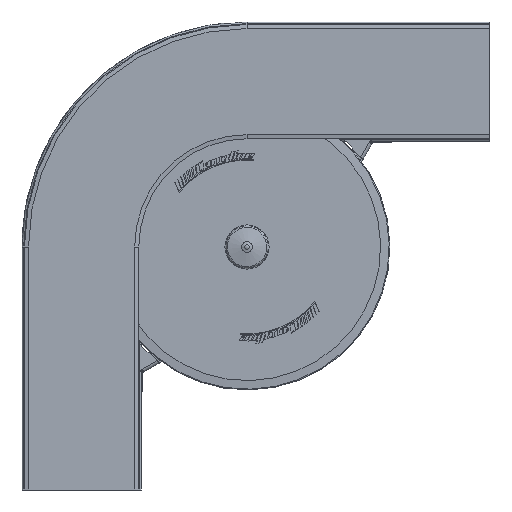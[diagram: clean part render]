
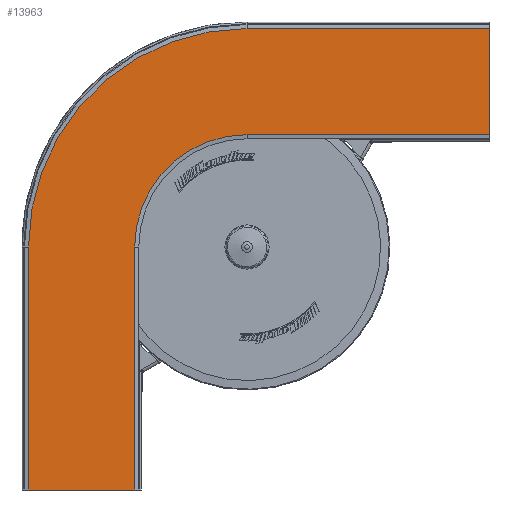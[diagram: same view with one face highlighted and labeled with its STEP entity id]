
A CAD part, front view. The second image highlights one B-rep face of the part: STEP entity #13963.
In plain terms, the highlighted planar face has unit normal (0, -1, 0).
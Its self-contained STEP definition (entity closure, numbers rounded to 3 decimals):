
#850=CIRCLE('',#15004,137.5);
#851=CIRCLE('',#15006,267.5);
#1390=FACE_OUTER_BOUND('',#2226,.T.);
#2226=EDGE_LOOP('',(#9296,#9297,#9298,#9299,#9300,#9301,#9302,#9303));
#3179=LINE('',#20115,#4499);
#3183=LINE('',#20122,#4503);
#3194=LINE('',#20155,#4514);
#3195=LINE('',#20157,#4515);
#3196=LINE('',#20158,#4516);
#3197=LINE('',#20159,#4517);
#4499=VECTOR('',#16266,10.);
#4503=VECTOR('',#16272,10.);
#4514=VECTOR('',#16303,10.);
#4515=VECTOR('',#16304,10.);
#4516=VECTOR('',#16305,10.);
#4517=VECTOR('',#16306,10.);
#5819=VERTEX_POINT('',#20112);
#5820=VERTEX_POINT('',#20114);
#5822=VERTEX_POINT('',#20120);
#5831=VERTEX_POINT('',#20146);
#5832=VERTEX_POINT('',#20148);
#5833=VERTEX_POINT('',#20152);
#5834=VERTEX_POINT('',#20154);
#5835=VERTEX_POINT('',#20156);
#7167=EDGE_CURVE('',#5820,#5819,#3179,.T.);
#7171=EDGE_CURVE('',#5822,#5819,#3183,.T.);
#7184=EDGE_CURVE('',#5832,#5831,#850,.T.);
#7186=EDGE_CURVE('',#5833,#5822,#851,.T.);
#7187=EDGE_CURVE('',#5834,#5833,#3194,.T.);
#7188=EDGE_CURVE('',#5834,#5835,#3195,.T.);
#7189=EDGE_CURVE('',#5835,#5832,#3196,.T.);
#7190=EDGE_CURVE('',#5831,#5820,#3197,.T.);
#9296=ORIENTED_EDGE('',*,*,#7167,.T.);
#9297=ORIENTED_EDGE('',*,*,#7171,.F.);
#9298=ORIENTED_EDGE('',*,*,#7186,.F.);
#9299=ORIENTED_EDGE('',*,*,#7187,.F.);
#9300=ORIENTED_EDGE('',*,*,#7188,.T.);
#9301=ORIENTED_EDGE('',*,*,#7189,.T.);
#9302=ORIENTED_EDGE('',*,*,#7184,.T.);
#9303=ORIENTED_EDGE('',*,*,#7190,.T.);
#13476=PLANE('',#15005);
#13963=ADVANCED_FACE('',(#1390),#13476,.T.);
#15004=AXIS2_PLACEMENT_3D('',#20149,#16296,#16297);
#15005=AXIS2_PLACEMENT_3D('',#20151,#16299,#16300);
#15006=AXIS2_PLACEMENT_3D('',#20153,#16301,#16302);
#16266=DIRECTION('',(0.,0.,1.));
#16272=DIRECTION('',(1.,0.,0.));
#16296=DIRECTION('center_axis',(0.,1.,0.));
#16297=DIRECTION('ref_axis',(-1.,0.,0.));
#16299=DIRECTION('center_axis',(0.,-1.,0.));
#16300=DIRECTION('ref_axis',(-1.,0.,0.));
#16301=DIRECTION('center_axis',(0.,1.,0.));
#16302=DIRECTION('ref_axis',(-1.,0.,0.));
#16303=DIRECTION('',(0.,0.,1.));
#16304=DIRECTION('',(1.,0.,0.));
#16305=DIRECTION('',(0.,0.,1.));
#16306=DIRECTION('',(1.,0.,0.));
#20112=CARTESIAN_POINT('',(539.001,-72.,565.));
#20114=CARTESIAN_POINT('',(539.001,-72.,435.));
#20115=CARTESIAN_POINT('',(539.001,-72.,469.));
#20120=CARTESIAN_POINT('',(241.501,-72.,565.));
#20122=CARTESIAN_POINT('',(-374.086,-72.,565.));
#20146=CARTESIAN_POINT('',(241.501,-72.,435.));
#20148=CARTESIAN_POINT('',(104.001,-72.,297.5));
#20149=CARTESIAN_POINT('Origin',(241.501,-72.,297.5));
#20151=CARTESIAN_POINT('Origin',(-374.086,-72.,435.));
#20152=CARTESIAN_POINT('',(-25.999,-72.,297.5));
#20153=CARTESIAN_POINT('Origin',(241.501,-72.,297.5));
#20154=CARTESIAN_POINT('',(-25.999,-72.,0.));
#20155=CARTESIAN_POINT('',(-25.999,-72.,0.));
#20156=CARTESIAN_POINT('',(104.001,-72.,0.));
#20157=CARTESIAN_POINT('',(-25.999,-72.,0.));
#20158=CARTESIAN_POINT('',(104.001,-72.,0.));
#20159=CARTESIAN_POINT('',(-374.086,-72.,435.));
